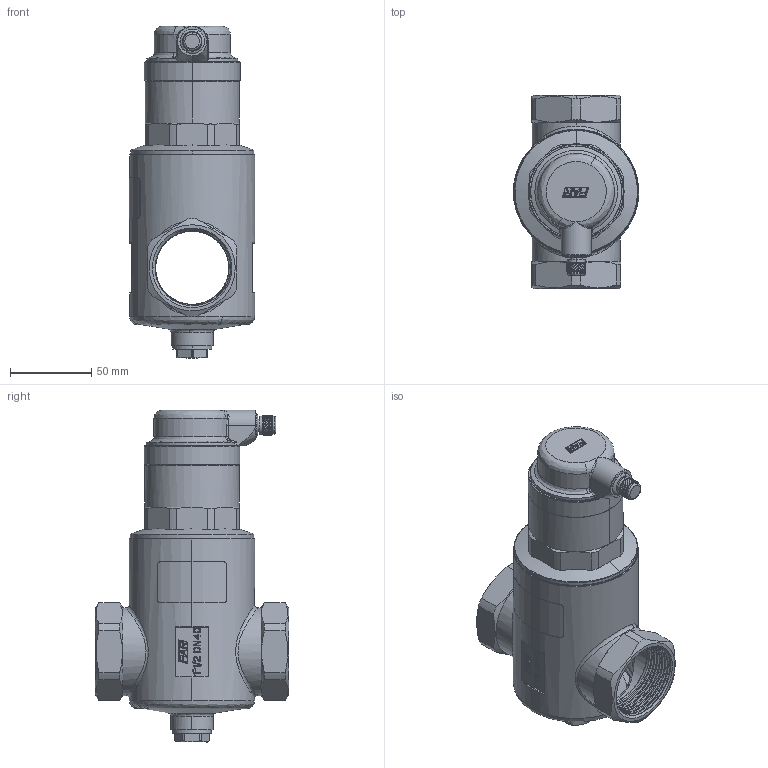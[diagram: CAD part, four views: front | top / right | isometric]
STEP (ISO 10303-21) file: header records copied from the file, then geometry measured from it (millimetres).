
FILE_DESCRIPTION (( 'STEP AP214' ), '1' );
FILE_NAME ('FAR314.STEP', '2022-05-09T08:57:03', ( '' ), ( '' ), 'SwSTEP 2.0', 'SolidWorks 2021', '' );
FILE_SCHEMA (( 'AUTOMOTIVE_DESIGN' ));
Length unit declared in the file: millimetre
Products named in the file (21): 1508trm_giallo; 8350 635; 087stg; 3812asb; 580mnm_F; 1442trm_giallo; 2507asb; 542mnm_F; 004stg; 8350 4445; 2506asb; 8350 1115; 200lemA; 1509trm_giallo; FAR314; 131mtt; 2509asb; 4316asb; 059lme_def; 8350 172; 481mnm_F
Assembly tree (20 placements, depth 4):
  FAR314
    2509asb
      059lme_def
      2507asb
        087stg
      2506asb
        481mnm_F
        8350 1115
    1508trm_giallo
    1509trm_giallo
    131mtt
    8350 4445
    8350 635
    3812asb
      542mnm_F
      8350 172
    1442trm_giallo
    4316asb
      004stg
      580mnm_F
    200lemA
Bounding box: 77.25 x 119 x 204.27 mm (x, y, z)
Volume: 192886.6 mm3; surface area: 133118.3 mm2
Topology: 14 solids, 52 shells, 2220 faces, 5408 edges, 3240 vertices
Faces by surface type: bspline 1042, cylinder 646, plane 323, cone 209
Entity records: 115119 total; most frequent: CARTESIAN_POINT 72589, ORIENTED_EDGE 10578, EDGE_CURVE 5327, DIRECTION 5256, VERTEX_POINT 3240, B_SPLINE_CURVE_WITH_KNOTS 3023, EDGE_LOOP 2311, ADVANCED_FACE 2220
